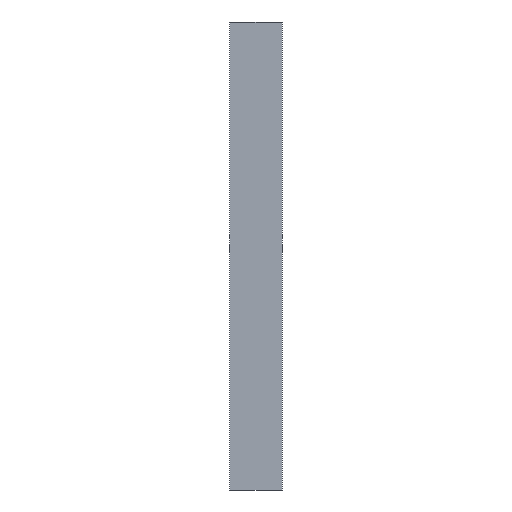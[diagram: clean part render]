
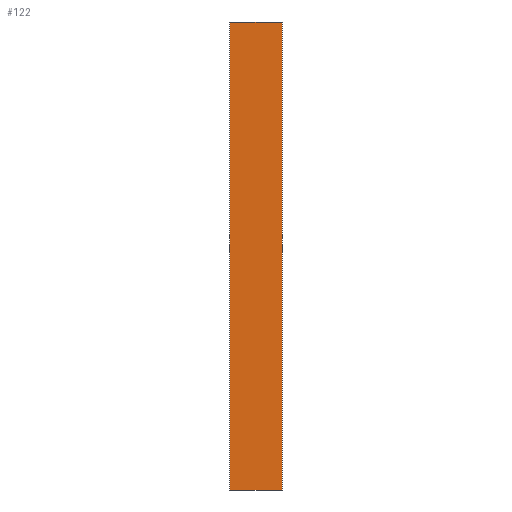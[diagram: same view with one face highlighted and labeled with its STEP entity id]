
A CAD part, left-side view. The second image highlights one B-rep face of the part: STEP entity #122.
In plain terms, the highlighted planar face has unit normal (-1, 0, 0).
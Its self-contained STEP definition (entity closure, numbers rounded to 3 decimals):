
#8 = EDGE_CURVE ( 'NONE', #232, #231, #142, .T. ) ;
#14 = EDGE_CURVE ( 'NONE', #234, #238, #152, .T. ) ;
#18 = EDGE_CURVE ( 'NONE', #231, #238, #156, .T. ) ;
#29 = EDGE_CURVE ( 'NONE', #232, #234, #43, .T. ) ;
#30 = AXIS2_PLACEMENT_3D ( 'NONE', #337, #261, #315 ) ;
#43 = LINE ( 'NONE', #245, #44 ) ;
#44 = VECTOR ( 'NONE', #310, 1000. ) ;
#66 = FACE_OUTER_BOUND ( 'NONE', #135, .T. ) ;
#122 = ADVANCED_FACE ( 'NONE', ( #66 ), #258, .T. ) ;
#135 = EDGE_LOOP ( 'NONE', ( #184, #180, #179, #178 ) ) ;
#142 = LINE ( 'NONE', #216, #146 ) ;
#146 = VECTOR ( 'NONE', #213, 1000. ) ;
#152 = LINE ( 'NONE', #208, #153 ) ;
#153 = VECTOR ( 'NONE', #207, 1000. ) ;
#156 = LINE ( 'NONE', #204, #157 ) ;
#157 = VECTOR ( 'NONE', #203, 1000. ) ;
#178 = ORIENTED_EDGE ( 'NONE', *, *, #14, .T. ) ;
#179 = ORIENTED_EDGE ( 'NONE', *, *, #29, .T. ) ;
#180 = ORIENTED_EDGE ( 'NONE', *, *, #8, .F. ) ;
#184 = ORIENTED_EDGE ( 'NONE', *, *, #18, .F. ) ;
#203 = DIRECTION ( 'NONE',  ( 0., -1., 0. ) ) ;
#204 = CARTESIAN_POINT ( 'NONE',  ( -5.25, -15., 0. ) ) ;
#207 = DIRECTION ( 'NONE',  ( 0., 0., 1. ) ) ;
#208 = CARTESIAN_POINT ( 'NONE',  ( -5.25, -15., -267.1 ) ) ;
#213 = DIRECTION ( 'NONE',  ( 0., 0., 1. ) ) ;
#216 = CARTESIAN_POINT ( 'NONE',  ( -5.25, 15., -267.1 ) ) ;
#231 = VERTEX_POINT ( 'NONE', #298 ) ;
#232 = VERTEX_POINT ( 'NONE', #322 ) ;
#234 = VERTEX_POINT ( 'NONE', #285 ) ;
#238 = VERTEX_POINT ( 'NONE', #286 ) ;
#245 = CARTESIAN_POINT ( 'NONE',  ( -5.25, -15., -267.1 ) ) ;
#258 = PLANE ( 'NONE',  #30 ) ;
#261 = DIRECTION ( 'NONE',  ( -1., 0., 0. ) ) ;
#285 = CARTESIAN_POINT ( 'NONE',  ( -5.25, -15., -267.1 ) ) ;
#286 = CARTESIAN_POINT ( 'NONE',  ( -5.25, -15., 0. ) ) ;
#298 = CARTESIAN_POINT ( 'NONE',  ( -5.25, 15., 0. ) ) ;
#310 = DIRECTION ( 'NONE',  ( 0., -1., 0. ) ) ;
#315 = DIRECTION ( 'NONE',  ( 0., 0., 1. ) ) ;
#322 = CARTESIAN_POINT ( 'NONE',  ( -5.25, 15., -267.1 ) ) ;
#337 = CARTESIAN_POINT ( 'NONE',  ( -5.25, -15., -267.1 ) ) ;
